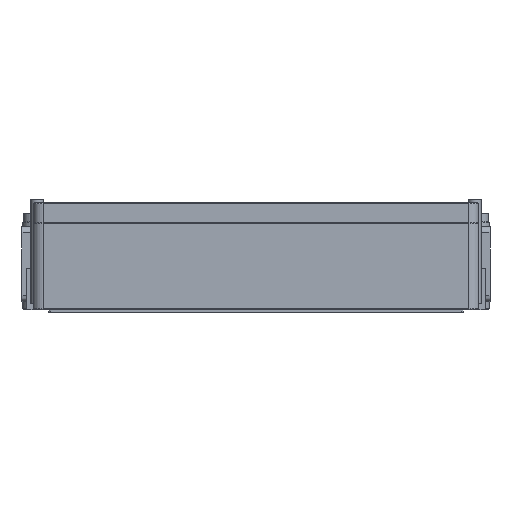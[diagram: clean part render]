
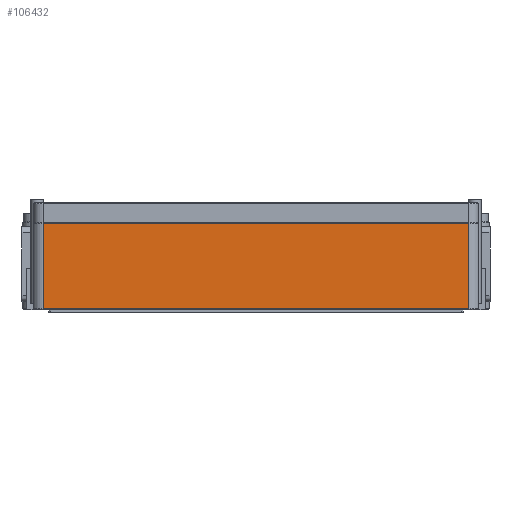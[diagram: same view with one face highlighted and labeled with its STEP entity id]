
A CAD part, front view. The second image highlights one B-rep face of the part: STEP entity #106432.
In plain terms, the highlighted planar face has unit normal (0, -1, 0).
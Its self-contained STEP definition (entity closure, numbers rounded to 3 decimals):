
#104645 = CYLINDRICAL_SURFACE('',#104646,5.);
#104646 = AXIS2_PLACEMENT_3D('',#104647,#104648,#104649);
#104647 = CARTESIAN_POINT('',(-102.,-188.15,-26.5));
#104648 = DIRECTION('',(0.,0.,1.));
#104649 = DIRECTION('',(-1.,0.,0.));
#104936 = PLANE('',#104937);
#104937 = AXIS2_PLACEMENT_3D('',#104938,#104939,#104940);
#104938 = CARTESIAN_POINT('',(-107.,-193.15,15.));
#104939 = DIRECTION('',(0.,0.,1.));
#104940 = DIRECTION('',(1.,0.,0.));
#104953 = VERTEX_POINT('',#104954);
#104954 = CARTESIAN_POINT('',(-102.,-193.15,-25.9));
#104981 = EDGE_CURVE('',#104953,#104982,#104984,.T.);
#104982 = VERTEX_POINT('',#104983);
#104983 = CARTESIAN_POINT('',(-102.,-193.15,15.));
#104984 = SURFACE_CURVE('',#104985,(#104989,#104996),.PCURVE_S1.);
#104985 = LINE('',#104986,#104987);
#104986 = CARTESIAN_POINT('',(-102.,-193.15,-26.5));
#104987 = VECTOR('',#104988,1.);
#104988 = DIRECTION('',(0.,0.,1.));
#104989 = PCURVE('',#104645,#104990);
#104990 = DEFINITIONAL_REPRESENTATION('',(#104991),#104995);
#104991 = LINE('',#104992,#104993);
#104992 = CARTESIAN_POINT('',(1.571,0.));
#104993 = VECTOR('',#104994,1.);
#104994 = DIRECTION('',(0.,1.));
#104995 = ( GEOMETRIC_REPRESENTATION_CONTEXT(2) 
PARAMETRIC_REPRESENTATION_CONTEXT() REPRESENTATION_CONTEXT('2D SPACE',''
  ) );
#104996 = PCURVE('',#104997,#105002);
#104997 = PLANE('',#104998);
#104998 = AXIS2_PLACEMENT_3D('',#104999,#105000,#105001);
#104999 = CARTESIAN_POINT('',(-107.,-193.15,-26.5));
#105000 = DIRECTION('',(0.,1.,0.));
#105001 = DIRECTION('',(0.,0.,1.));
#105002 = DEFINITIONAL_REPRESENTATION('',(#105003),#105007);
#105003 = LINE('',#105004,#105005);
#105004 = CARTESIAN_POINT('',(0.,5.));
#105005 = VECTOR('',#105006,1.);
#105006 = DIRECTION('',(1.,0.));
#105007 = ( GEOMETRIC_REPRESENTATION_CONTEXT(2) 
PARAMETRIC_REPRESENTATION_CONTEXT() REPRESENTATION_CONTEXT('2D SPACE',''
  ) );
#105064 = EDGE_CURVE('',#104982,#105065,#105067,.T.);
#105065 = VERTEX_POINT('',#105066);
#105066 = CARTESIAN_POINT('',(102.,-193.15,15.));
#105067 = SURFACE_CURVE('',#105068,(#105072,#105079),.PCURVE_S1.);
#105068 = LINE('',#105069,#105070);
#105069 = CARTESIAN_POINT('',(-107.,-193.15,15.));
#105070 = VECTOR('',#105071,1.);
#105071 = DIRECTION('',(1.,0.,0.));
#105072 = PCURVE('',#104936,#105073);
#105073 = DEFINITIONAL_REPRESENTATION('',(#105074),#105078);
#105074 = LINE('',#105075,#105076);
#105075 = CARTESIAN_POINT('',(0.,0.));
#105076 = VECTOR('',#105077,1.);
#105077 = DIRECTION('',(1.,0.));
#105078 = ( GEOMETRIC_REPRESENTATION_CONTEXT(2) 
PARAMETRIC_REPRESENTATION_CONTEXT() REPRESENTATION_CONTEXT('2D SPACE',''
  ) );
#105079 = PCURVE('',#104997,#105080);
#105080 = DEFINITIONAL_REPRESENTATION('',(#105081),#105085);
#105081 = LINE('',#105082,#105083);
#105082 = CARTESIAN_POINT('',(41.5,0.));
#105083 = VECTOR('',#105084,1.);
#105084 = DIRECTION('',(0.,1.));
#105085 = ( GEOMETRIC_REPRESENTATION_CONTEXT(2) 
PARAMETRIC_REPRESENTATION_CONTEXT() REPRESENTATION_CONTEXT('2D SPACE',''
  ) );
#105108 = CYLINDRICAL_SURFACE('',#105109,5.);
#105109 = AXIS2_PLACEMENT_3D('',#105110,#105111,#105112);
#105110 = CARTESIAN_POINT('',(102.,-188.15,-26.5));
#105111 = DIRECTION('',(0.,0.,1.));
#105112 = DIRECTION('',(1.,0.,0.));
#106393 = PLANE('',#106394);
#106394 = AXIS2_PLACEMENT_3D('',#106395,#106396,#106397);
#106395 = CARTESIAN_POINT('',(102.,-192.85,-26.2));
#106396 = DIRECTION('',(0.,-0.707,-0.707));
#106397 = DIRECTION('',(-1.,0.,0.));
#106432 = ADVANCED_FACE('',(#106433),#104997,.F.);
#106433 = FACE_BOUND('',#106434,.F.);
#106434 = EDGE_LOOP('',(#106435,#106436,#106437,#106460));
#106435 = ORIENTED_EDGE('',*,*,#104981,.T.);
#106436 = ORIENTED_EDGE('',*,*,#105064,.T.);
#106437 = ORIENTED_EDGE('',*,*,#106438,.F.);
#106438 = EDGE_CURVE('',#106439,#105065,#106441,.T.);
#106439 = VERTEX_POINT('',#106440);
#106440 = CARTESIAN_POINT('',(102.,-193.15,-25.9));
#106441 = SURFACE_CURVE('',#106442,(#106446,#106453),.PCURVE_S1.);
#106442 = LINE('',#106443,#106444);
#106443 = CARTESIAN_POINT('',(102.,-193.15,-26.5));
#106444 = VECTOR('',#106445,1.);
#106445 = DIRECTION('',(0.,0.,1.));
#106446 = PCURVE('',#104997,#106447);
#106447 = DEFINITIONAL_REPRESENTATION('',(#106448),#106452);
#106448 = LINE('',#106449,#106450);
#106449 = CARTESIAN_POINT('',(0.,209.));
#106450 = VECTOR('',#106451,1.);
#106451 = DIRECTION('',(1.,0.));
#106452 = ( GEOMETRIC_REPRESENTATION_CONTEXT(2) 
PARAMETRIC_REPRESENTATION_CONTEXT() REPRESENTATION_CONTEXT('2D SPACE',''
  ) );
#106453 = PCURVE('',#105108,#106454);
#106454 = DEFINITIONAL_REPRESENTATION('',(#106455),#106459);
#106455 = LINE('',#106456,#106457);
#106456 = CARTESIAN_POINT('',(4.712,0.));
#106457 = VECTOR('',#106458,1.);
#106458 = DIRECTION('',(-0.,1.));
#106459 = ( GEOMETRIC_REPRESENTATION_CONTEXT(2) 
PARAMETRIC_REPRESENTATION_CONTEXT() REPRESENTATION_CONTEXT('2D SPACE',''
  ) );
#106460 = ORIENTED_EDGE('',*,*,#106461,.T.);
#106461 = EDGE_CURVE('',#106439,#104953,#106462,.T.);
#106462 = SURFACE_CURVE('',#106463,(#106467,#106474),.PCURVE_S1.);
#106463 = LINE('',#106464,#106465);
#106464 = CARTESIAN_POINT('',(102.,-193.15,-25.9));
#106465 = VECTOR('',#106466,1.);
#106466 = DIRECTION('',(-1.,-0.,-0.));
#106467 = PCURVE('',#104997,#106468);
#106468 = DEFINITIONAL_REPRESENTATION('',(#106469),#106473);
#106469 = LINE('',#106470,#106471);
#106470 = CARTESIAN_POINT('',(0.6,209.));
#106471 = VECTOR('',#106472,1.);
#106472 = DIRECTION('',(0.,-1.));
#106473 = ( GEOMETRIC_REPRESENTATION_CONTEXT(2) 
PARAMETRIC_REPRESENTATION_CONTEXT() REPRESENTATION_CONTEXT('2D SPACE',''
  ) );
#106474 = PCURVE('',#106393,#106475);
#106475 = DEFINITIONAL_REPRESENTATION('',(#106476),#106480);
#106476 = LINE('',#106477,#106478);
#106477 = CARTESIAN_POINT('',(0.,-0.424));
#106478 = VECTOR('',#106479,1.);
#106479 = DIRECTION('',(1.,0.));
#106480 = ( GEOMETRIC_REPRESENTATION_CONTEXT(2) 
PARAMETRIC_REPRESENTATION_CONTEXT() REPRESENTATION_CONTEXT('2D SPACE',''
  ) );
